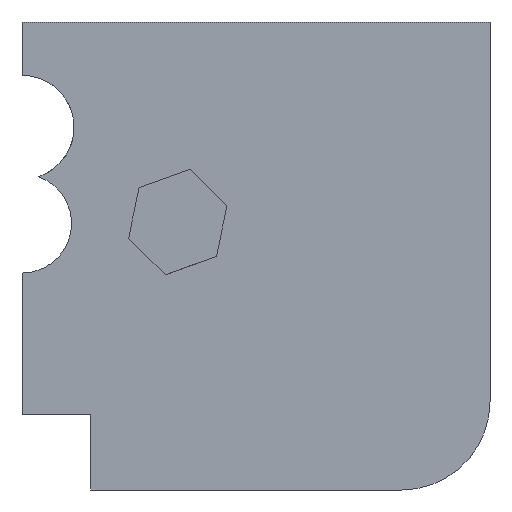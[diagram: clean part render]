
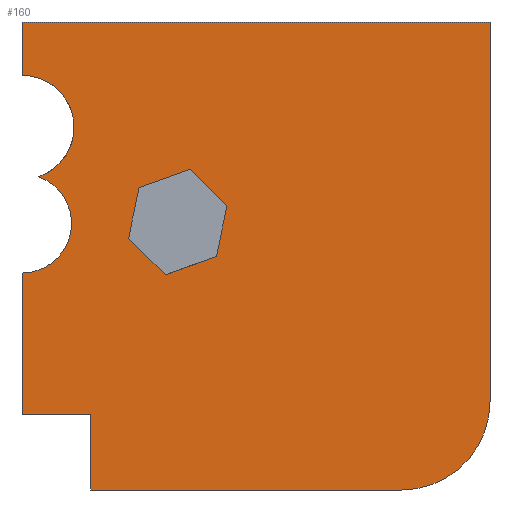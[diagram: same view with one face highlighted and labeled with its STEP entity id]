
A CAD part, left-side view. The second image highlights one B-rep face of the part: STEP entity #160.
In plain terms, the highlighted planar face has unit normal (-1, 0, 0).
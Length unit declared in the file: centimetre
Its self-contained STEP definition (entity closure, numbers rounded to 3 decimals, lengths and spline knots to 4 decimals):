
#8 = VECTOR ( 'NONE', #979, 100. ) ;
#11 = LINE ( 'NONE', #477, #1139 ) ;
#23 = CARTESIAN_POINT ( 'NONE',  ( 0., 772.2377, 537.8738 ) ) ;
#35 = CIRCLE ( 'NONE', #1334, 111.299 ) ;
#46 = CARTESIAN_POINT ( 'NONE',  ( 0., 562.0225, 607.518 ) ) ;
#50 = VERTEX_POINT ( 'NONE', #667 ) ;
#66 = ORIENTED_EDGE ( 'NONE', *, *, #595, .F. ) ;
#72 = DIRECTION ( 'NONE',  ( 0., 0., -1. ) ) ;
#76 = VERTEX_POINT ( 'NONE', #1129 ) ;
#77 = CARTESIAN_POINT ( 'NONE',  ( 0., 853.0866, 161.7182 ) ) ;
#139 = VECTOR ( 'NONE', #592, 100. ) ;
#150 = VECTOR ( 'NONE', #907, 100. ) ;
#160 = ADVANCED_FACE ( 'NONE', ( #840, #603 ), #950, .F. ) ;
#165 = VERTEX_POINT ( 'NONE', #845 ) ;
#189 = CARTESIAN_POINT ( 'NONE',  ( 0., 853.0866, 161.7182 ) ) ;
#195 = CARTESIAN_POINT ( 'NONE',  ( 0., 749.8408, 646.3107 ) ) ;
#201 = EDGE_CURVE ( 'NONE', #572, #594, #699, .T. ) ;
#208 = ORIENTED_EDGE ( 'NONE', *, *, #1438, .T. ) ;
#210 = AXIS2_PLACEMENT_3D ( 'NONE', #996, #1089, #407 ) ;
#227 = CARTESIAN_POINT ( 'NONE',  ( 0., 749.8408, 646.3107 ) ) ;
#256 = EDGE_CURVE ( 'NONE', #394, #333, #1151, .T. ) ;
#269 = LINE ( 'NONE', #605, #139 ) ;
#275 = CARTESIAN_POINT ( 'NONE',  ( 0., 1000., 774.8235 ) ) ;
#279 = VECTOR ( 'NONE', #504, 100. ) ;
#287 = CARTESIAN_POINT ( 'NONE',  ( 0., 694.075, 459.711 ) ) ;
#310 = LINE ( 'NONE', #77, #930 ) ;
#333 = VERTEX_POINT ( 'NONE', #227 ) ;
#381 = DIRECTION ( 'NONE',  ( 0., 0., -1. ) ) ;
#394 = VERTEX_POINT ( 'NONE', #707 ) ;
#403 = EDGE_LOOP ( 'NONE', ( #556, #551, #1099, #1416, #1428, #599 ) ) ;
#404 = CARTESIAN_POINT ( 'NONE',  ( 0., 964.6694, 669.281 ) ) ;
#407 = DIRECTION ( 'NONE',  ( 0., 0., -1. ) ) ;
#408 = LINE ( 'NONE', #874, #1160 ) ;
#422 = VECTOR ( 'NONE', #643, 100. ) ;
#427 = EDGE_CURVE ( 'NONE', #947, #394, #498, .T. ) ;
#457 = CARTESIAN_POINT ( 'NONE',  ( 0., 1000., 886.1226 ) ) ;
#459 = EDGE_CURVE ( 'NONE', #517, #1332, #847, .T. ) ;
#472 = CARTESIAN_POINT ( 'NONE',  ( 0., 1000., 0. ) ) ;
#477 = CARTESIAN_POINT ( 'NONE',  ( 0., 584.4195, 499.0811 ) ) ;
#493 = VECTOR ( 'NONE', #650, 100. ) ;
#495 = CIRCLE ( 'NONE', #1210, 188.9432 ) ;
#498 = LINE ( 'NONE', #46, #279 ) ;
#504 = DIRECTION ( 'NONE',  ( 0., 0.707, 0.707 ) ) ;
#509 = DIRECTION ( 'NONE',  ( 1., 0., 0. ) ) ;
#517 = VERTEX_POINT ( 'NONE', #997 ) ;
#530 = ORIENTED_EDGE ( 'NONE', *, *, #1147, .T. ) ;
#544 = VERTEX_POINT ( 'NONE', #619 ) ;
#551 = ORIENTED_EDGE ( 'NONE', *, *, #256, .F. ) ;
#556 = ORIENTED_EDGE ( 'NONE', *, *, #642, .F. ) ;
#560 = ORIENTED_EDGE ( 'NONE', *, *, #201, .T. ) ;
#566 = CIRCLE ( 'NONE', #210, 105.871 ) ;
#572 = VERTEX_POINT ( 'NONE', #626 ) ;
#588 = CARTESIAN_POINT ( 'NONE',  ( 0., 0., 1000. ) ) ;
#592 = DIRECTION ( 'NONE',  ( 0., 0., -1. ) ) ;
#594 = VERTEX_POINT ( 'NONE', #1433 ) ;
#595 = EDGE_CURVE ( 'NONE', #1034, #517, #408, .T. ) ;
#599 = ORIENTED_EDGE ( 'NONE', *, *, #1268, .F. ) ;
#603 = FACE_OUTER_BOUND ( 'NONE', #1050, .T. ) ;
#605 = CARTESIAN_POINT ( 'NONE',  ( 0., 1000., 1000. ) ) ;
#614 = ORIENTED_EDGE ( 'NONE', *, *, #459, .F. ) ;
#619 = CARTESIAN_POINT ( 'NONE',  ( 0., 1000., 463.6081 ) ) ;
#626 = CARTESIAN_POINT ( 'NONE',  ( 0., 853.0866, 0. ) ) ;
#642 = EDGE_CURVE ( 'NONE', #333, #1264, #1221, .T. ) ;
#643 = DIRECTION ( 'NONE',  ( 0., 1., 0. ) ) ;
#650 = DIRECTION ( 'NONE',  ( 0., 0.202, -0.979 ) ) ;
#667 = CARTESIAN_POINT ( 'NONE',  ( 0., 853.0866, 161.7182 ) ) ;
#699 = LINE ( 'NONE', #472, #1278 ) ;
#703 = ORIENTED_EDGE ( 'NONE', *, *, #894, .T. ) ;
#707 = CARTESIAN_POINT ( 'NONE',  ( 0., 640.1852, 685.6807 ) ) ;
#708 = ORIENTED_EDGE ( 'NONE', *, *, #959, .T. ) ;
#732 = CARTESIAN_POINT ( 'NONE',  ( 0., 1000., 1000. ) ) ;
#734 = DIRECTION ( 'NONE',  ( 0., 0., -1. ) ) ;
#768 = ORIENTED_EDGE ( 'NONE', *, *, #770, .T. ) ;
#770 = EDGE_CURVE ( 'NONE', #544, #165, #269, .T. ) ;
#794 = CARTESIAN_POINT ( 'NONE',  ( 0., 1000., 1000. ) ) ;
#801 = DIRECTION ( 'NONE',  ( 0., 0., -1. ) ) ;
#840 = FACE_BOUND ( 'NONE', #403, .T. ) ;
#844 = CARTESIAN_POINT ( 'NONE',  ( 0., 772.2377, 537.8738 ) ) ;
#845 = CARTESIAN_POINT ( 'NONE',  ( 0., 1000., 161.7182 ) ) ;
#846 = CARTESIAN_POINT ( 'NONE',  ( 0., 188.9432, 188.9432 ) ) ;
#847 = LINE ( 'NONE', #588, #1088 ) ;
#855 = CARTESIAN_POINT ( 'NONE',  ( 0., 562.0225, 607.518 ) ) ;
#867 = VERTEX_POINT ( 'NONE', #1391 ) ;
#874 = CARTESIAN_POINT ( 'NONE',  ( 0., 1000., 1000. ) ) ;
#881 = DIRECTION ( 'NONE',  ( 0., -1., 0. ) ) ;
#894 = EDGE_CURVE ( 'NONE', #594, #1332, #495, .T. ) ;
#900 = EDGE_CURVE ( 'NONE', #1350, #544, #566, .T. ) ;
#907 = DIRECTION ( 'NONE',  ( 0., 0.941, -0.338 ) ) ;
#930 = VECTOR ( 'NONE', #1328, 100. ) ;
#938 = DIRECTION ( 'NONE',  ( 0., -0.202, 0.979 ) ) ;
#947 = VERTEX_POINT ( 'NONE', #855 ) ;
#950 = PLANE ( 'NONE',  #1174 ) ;
#959 = EDGE_CURVE ( 'NONE', #1095, #1350, #35, .T. ) ;
#967 = DIRECTION ( 'NONE',  ( 0., 0., -1. ) ) ;
#978 = VECTOR ( 'NONE', #1063, 100. ) ;
#979 = DIRECTION ( 'NONE',  ( 0., -0.941, 0.338 ) ) ;
#996 = CARTESIAN_POINT ( 'NONE',  ( 0., 1000., 569.4791 ) ) ;
#997 = CARTESIAN_POINT ( 'NONE',  ( 0., 0., 1000. ) ) ;
#1007 = EDGE_CURVE ( 'NONE', #50, #165, #1073, .T. ) ;
#1010 = ORIENTED_EDGE ( 'NONE', *, *, #1007, .F. ) ;
#1034 = VERTEX_POINT ( 'NONE', #794 ) ;
#1035 = CARTESIAN_POINT ( 'NONE',  ( 0., 1000., 1000. ) ) ;
#1050 = EDGE_LOOP ( 'NONE', ( #1010, #208, #560, #703, #614, #66, #530, #708, #1360, #768 ) ) ;
#1063 = DIRECTION ( 'NONE',  ( 0., -0.707, -0.707 ) ) ;
#1073 = LINE ( 'NONE', #189, #422 ) ;
#1085 = CARTESIAN_POINT ( 'NONE',  ( 0., 0., 188.9432 ) ) ;
#1088 = VECTOR ( 'NONE', #734, 100. ) ;
#1089 = DIRECTION ( 'NONE',  ( 1., 0., 0. ) ) ;
#1095 = VERTEX_POINT ( 'NONE', #457 ) ;
#1099 = ORIENTED_EDGE ( 'NONE', *, *, #427, .F. ) ;
#1129 = CARTESIAN_POINT ( 'NONE',  ( 0., 584.4195, 499.0811 ) ) ;
#1139 = VECTOR ( 'NONE', #938, 100. ) ;
#1147 = EDGE_CURVE ( 'NONE', #1034, #1095, #1226, .T. ) ;
#1151 = LINE ( 'NONE', #1275, #150 ) ;
#1160 = VECTOR ( 'NONE', #881, 100. ) ;
#1171 = LINE ( 'NONE', #844, #978 ) ;
#1174 = AXIS2_PLACEMENT_3D ( 'NONE', #732, #1402, #381 ) ;
#1197 = DIRECTION ( 'NONE',  ( -1., 0., 0. ) ) ;
#1210 = AXIS2_PLACEMENT_3D ( 'NONE', #846, #1197, #72 ) ;
#1219 = EDGE_CURVE ( 'NONE', #76, #947, #11, .T. ) ;
#1221 = LINE ( 'NONE', #195, #493 ) ;
#1226 = LINE ( 'NONE', #1035, #1424 ) ;
#1264 = VERTEX_POINT ( 'NONE', #23 ) ;
#1268 = EDGE_CURVE ( 'NONE', #1264, #867, #1171, .T. ) ;
#1275 = CARTESIAN_POINT ( 'NONE',  ( 0., 640.1852, 685.6807 ) ) ;
#1278 = VECTOR ( 'NONE', #1386, 100. ) ;
#1313 = LINE ( 'NONE', #287, #8 ) ;
#1328 = DIRECTION ( 'NONE',  ( 0., 0., -1. ) ) ;
#1332 = VERTEX_POINT ( 'NONE', #1085 ) ;
#1334 = AXIS2_PLACEMENT_3D ( 'NONE', #275, #509, #967 ) ;
#1335 = EDGE_CURVE ( 'NONE', #867, #76, #1313, .T. ) ;
#1350 = VERTEX_POINT ( 'NONE', #404 ) ;
#1360 = ORIENTED_EDGE ( 'NONE', *, *, #900, .T. ) ;
#1386 = DIRECTION ( 'NONE',  ( 0., -1., 0. ) ) ;
#1391 = CARTESIAN_POINT ( 'NONE',  ( 0., 694.075, 459.711 ) ) ;
#1402 = DIRECTION ( 'NONE',  ( 1., 0., 0. ) ) ;
#1416 = ORIENTED_EDGE ( 'NONE', *, *, #1219, .F. ) ;
#1424 = VECTOR ( 'NONE', #801, 100. ) ;
#1428 = ORIENTED_EDGE ( 'NONE', *, *, #1335, .F. ) ;
#1433 = CARTESIAN_POINT ( 'NONE',  ( 0., 188.9432, 0. ) ) ;
#1438 = EDGE_CURVE ( 'NONE', #50, #572, #310, .T. ) ;
